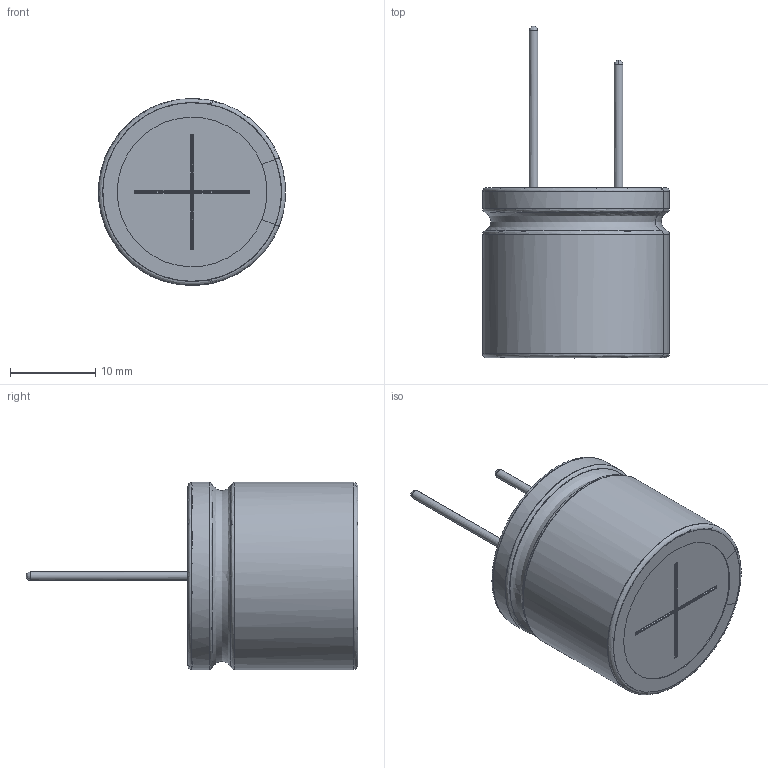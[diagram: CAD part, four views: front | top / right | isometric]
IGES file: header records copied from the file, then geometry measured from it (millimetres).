
Start section: JAMA-IS VERSION  1.0
Bounding box: 21.96 x 39 x 22 mm (x, y, z)
Surface area: 5566.1 mm2 (no closed solid volume)
Topology: 0 solids, 0 shells, 100 faces, 1352 edges, 1332 vertices
Faces by surface type: bspline 100
